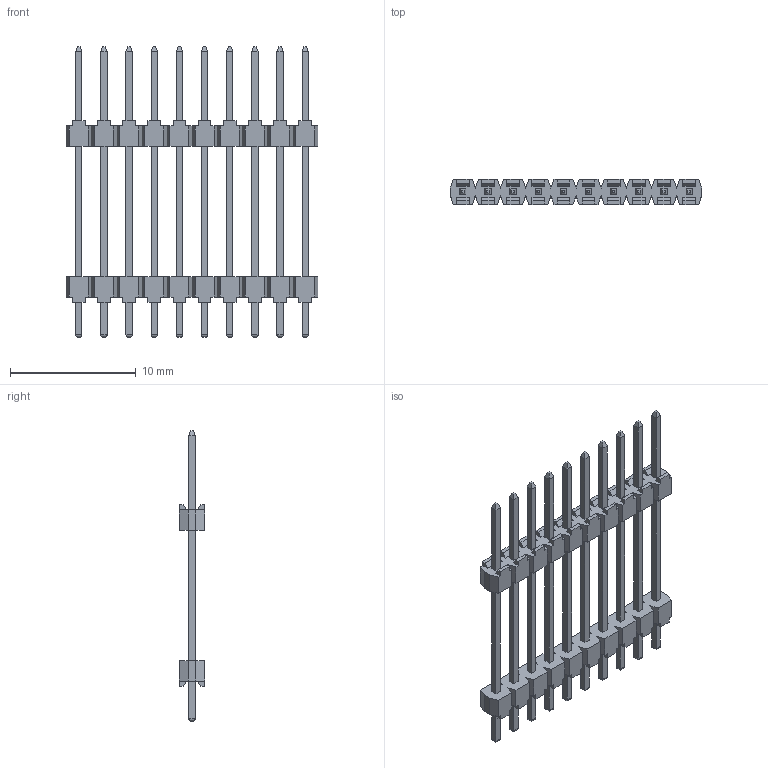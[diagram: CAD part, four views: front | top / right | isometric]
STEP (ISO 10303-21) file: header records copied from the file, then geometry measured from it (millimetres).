
FILE_DESCRIPTION(/* description */ (''),/* implementation_level */ '2;1');
FILE_NAME(/* name */ '951410-9062506-AR',/* time_stamp */ '2007-03-14T14:58:04+01:00',/* author */ (''),/* organization */ (''),/* preprocessor_version */ 'ST-DEVELOPER v9',/* originating_system */ 'UGS - NX 4.0',/* authorisation */ '');
FILE_SCHEMA (('AUTOMOTIVE_DESIGN { 1 0 10303 214 1 1 1 1 }'));
Length unit declared in the file: millimetre
Products named in the file (1): 951410-9062506-AR
Bounding box: 20 x 2 x 23.1 mm (x, y, z)
Volume: 172.7 mm3; surface area: 766.4 mm2
Topology: 1 solids, 1 shells, 508 faces, 1372 edges, 888 vertices
Faces by surface type: plane 468, cylinder 40
Entity records: 15596 total; most frequent: CARTESIAN_POINT 2769, ORIENTED_EDGE 2744, DIRECTION 2430, EDGE_CURVE 1372, LINE 1332, VECTOR 1332, VERTEX_POINT 888, AXIS2_PLACEMENT_3D 549
